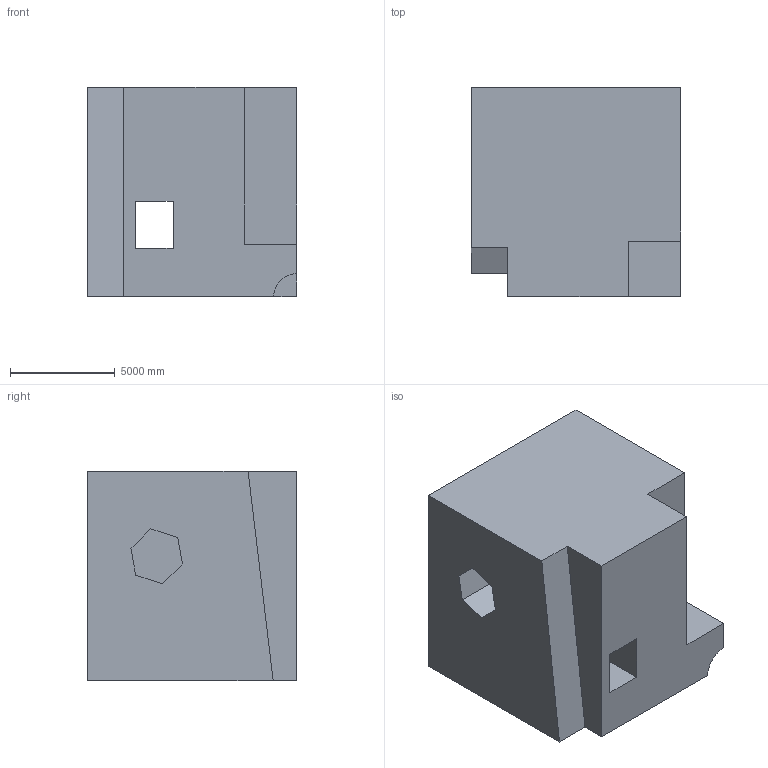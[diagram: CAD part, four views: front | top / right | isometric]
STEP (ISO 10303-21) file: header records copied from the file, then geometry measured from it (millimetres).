
FILE_DESCRIPTION (( 'STEP AP203' ), '1' );
FILE_NAME ('109.STEP', '2022-08-31T11:37:48', ( 'user' ), ( '' ), 'SwSTEP 2.0', 'SolidWorks 2021', '' );
FILE_SCHEMA (( 'CONFIG_CONTROL_DESIGN' ));
Length unit declared in the file: centimetre
Products named in the file (1): 109
Bounding box: 10000 x 10000 x 10000 mm (x, y, z)
Volume: 838059824041.6 mm3; surface area: 754264792.7 mm2
Topology: 1 solids, 1 shells, 28 faces, 72 edges, 48 vertices
Faces by surface type: plane 27, cylinder 1
Entity records: 919 total; most frequent: CARTESIAN_POINT 149, ORIENTED_EDGE 144, DIRECTION 132, EDGE_CURVE 72, VECTOR 70, LINE 70, VERTEX_POINT 48, EDGE_LOOP 32
